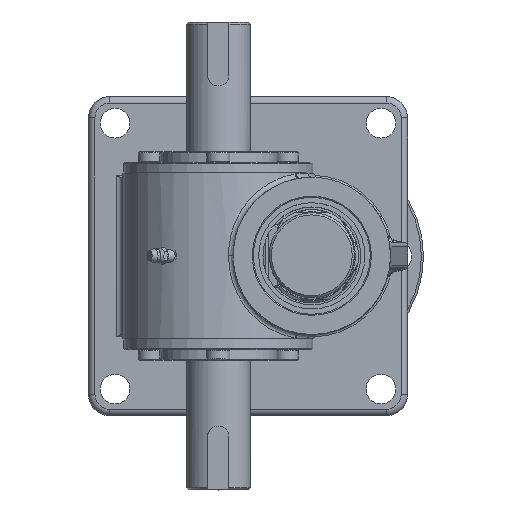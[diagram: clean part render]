
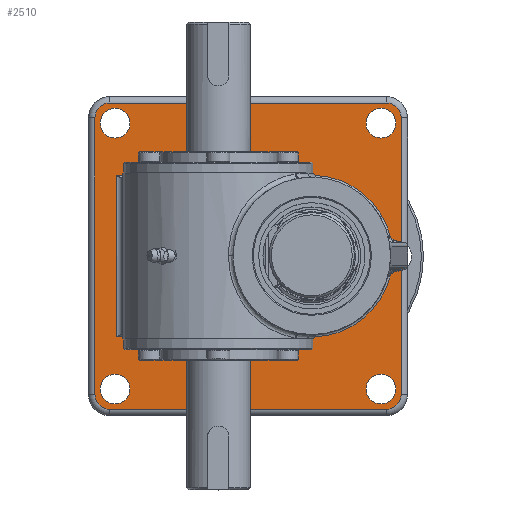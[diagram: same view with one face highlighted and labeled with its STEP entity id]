
A CAD part, top view. The second image highlights one B-rep face of the part: STEP entity #2510.
In plain terms, the highlighted planar face has unit normal (0, 0, 1).
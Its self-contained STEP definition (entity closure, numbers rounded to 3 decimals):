
#2510=ADVANCED_FACE('',(#5942,#5943,#5944,#5945,#5946),#5947,.T.);
#5942=FACE_OUTER_BOUND('',#13098,.T.);
#5943=FACE_BOUND('',#13099,.T.);
#5944=FACE_BOUND('',#13100,.T.);
#5945=FACE_BOUND('',#13101,.T.);
#5946=FACE_BOUND('',#13102,.T.);
#5947=PLANE('',#13103);
#13098=EDGE_LOOP('',(#23221,#23222,#23223,#23224,#23225,#23226,#23227,#23228,#23229,#23230,#23231,#23232,#23233,#23234,#23235,#23236,#23237,#23238,#23239,#23240,#23241,#23242,#23243,#23244));
#13099=EDGE_LOOP('',(#23245));
#13100=EDGE_LOOP('',(#23246));
#13101=EDGE_LOOP('',(#23247));
#13102=EDGE_LOOP('',(#23248));
#13103=AXIS2_PLACEMENT_3D('',#23249,#23250,#23251);
#23221=ORIENTED_EDGE('',*,*,#39569,.T.);
#23222=ORIENTED_EDGE('',*,*,#39277,.F.);
#23223=ORIENTED_EDGE('',*,*,#39338,.T.);
#23224=ORIENTED_EDGE('',*,*,#39333,.T.);
#23225=ORIENTED_EDGE('',*,*,#39607,.F.);
#23226=ORIENTED_EDGE('',*,*,#39136,.F.);
#23227=ORIENTED_EDGE('',*,*,#39271,.T.);
#23228=ORIENTED_EDGE('',*,*,#38793,.T.);
#23229=ORIENTED_EDGE('',*,*,#39521,.T.);
#23230=ORIENTED_EDGE('',*,*,#39517,.T.);
#23231=ORIENTED_EDGE('',*,*,#39519,.T.);
#23232=ORIENTED_EDGE('',*,*,#38767,.T.);
#23233=ORIENTED_EDGE('',*,*,#39274,.T.);
#23234=ORIENTED_EDGE('',*,*,#39565,.T.);
#23235=ORIENTED_EDGE('',*,*,#39267,.T.);
#23236=ORIENTED_EDGE('',*,*,#39491,.F.);
#23237=ORIENTED_EDGE('',*,*,#39564,.F.);
#23238=ORIENTED_EDGE('',*,*,#39100,.T.);
#23239=ORIENTED_EDGE('',*,*,#39099,.T.);
#23240=ORIENTED_EDGE('',*,*,#39613,.F.);
#23241=ORIENTED_EDGE('',*,*,#38785,.T.);
#23242=ORIENTED_EDGE('',*,*,#38783,.F.);
#23243=ORIENTED_EDGE('',*,*,#38779,.T.);
#23244=ORIENTED_EDGE('',*,*,#39614,.F.);
#23245=ORIENTED_EDGE('',*,*,#38814,.F.);
#23246=ORIENTED_EDGE('',*,*,#39492,.F.);
#23247=ORIENTED_EDGE('',*,*,#39615,.F.);
#23248=ORIENTED_EDGE('',*,*,#39173,.F.);
#23249=CARTESIAN_POINT('',(0.0,0.0,20.0));
#23250=DIRECTION('',(0.,0.,1.0));
#23251=DIRECTION('',(1.0,0.,0.));
#38767=EDGE_CURVE('',#45949,#45954,#45956,.T.);
#38779=EDGE_CURVE('',#45980,#45978,#45981,.T.);
#38783=EDGE_CURVE('',#45980,#45987,#45988,.T.);
#38785=EDGE_CURVE('',#45990,#45987,#45991,.T.);
#38793=EDGE_CURVE('',#45999,#46004,#46006,.T.);
#38814=EDGE_CURVE('',#46047,#46047,#46048,.T.);
#39099=EDGE_CURVE('',#46571,#46577,#46579,.T.);
#39100=EDGE_CURVE('',#46580,#46571,#46581,.T.);
#39136=EDGE_CURVE('',#46636,#46638,#46639,.T.);
#39173=EDGE_CURVE('',#46695,#46695,#46696,.T.);
#39267=EDGE_CURVE('',#46848,#46849,#46850,.T.);
#39271=EDGE_CURVE('',#46636,#45999,#46855,.T.);
#39274=EDGE_CURVE('',#45954,#46858,#46860,.T.);
#39277=EDGE_CURVE('',#46864,#46866,#46867,.T.);
#39333=EDGE_CURVE('',#46955,#46956,#46957,.T.);
#39338=EDGE_CURVE('',#46864,#46955,#46965,.T.);
#39491=EDGE_CURVE('',#47191,#46849,#47193,.T.);
#39492=EDGE_CURVE('',#47194,#47194,#47195,.T.);
#39517=EDGE_CURVE('',#47225,#47227,#47229,.T.);
#39519=EDGE_CURVE('',#47227,#45949,#47231,.T.);
#39521=EDGE_CURVE('',#46004,#47225,#47233,.T.);
#39564=EDGE_CURVE('',#46580,#47191,#47288,.T.);
#39565=EDGE_CURVE('',#46858,#46848,#47289,.T.);
#39569=EDGE_CURVE('',#47291,#46866,#47295,.T.);
#39607=EDGE_CURVE('',#46638,#46956,#47346,.T.);
#39613=EDGE_CURVE('',#45990,#46577,#47352,.T.);
#39614=EDGE_CURVE('',#47291,#45978,#47353,.T.);
#39615=EDGE_CURVE('',#47354,#47354,#47355,.T.);
#45949=VERTEX_POINT('',#58855);
#45954=VERTEX_POINT('',#58860);
#45956=CIRCLE('',#58862,7.0);
#45978=VERTEX_POINT('',#58887);
#45980=VERTEX_POINT('',#58898);
#45981=LINE('',#58899,#58900);
#45987=VERTEX_POINT('',#58918);
#45988=LINE('',#58919,#58920);
#45990=VERTEX_POINT('',#58931);
#45991=LINE('',#58932,#58933);
#45999=VERTEX_POINT('',#58955);
#46004=VERTEX_POINT('',#58960);
#46006=CIRCLE('',#58962,7.0);
#46047=VERTEX_POINT('',#59011);
#46048=CIRCLE('',#59012,7.0);
#46571=VERTEX_POINT('',#59960);
#46577=VERTEX_POINT('',#59989);
#46579=LINE('',#60000,#60001);
#46580=VERTEX_POINT('',#60002);
#46581=CIRCLE('',#60003,38.0);
#46636=VERTEX_POINT('',#60106);
#46638=VERTEX_POINT('',#60108);
#46639=LINE('',#60109,#60110);
#46695=VERTEX_POINT('',#60185);
#46696=CIRCLE('',#60186,7.0);
#46848=VERTEX_POINT('',#60715);
#46849=VERTEX_POINT('',#60716);
#46850=LINE('',#60717,#60718);
#46855=LINE('',#60746,#60747);
#46858=VERTEX_POINT('',#60751);
#46860=LINE('',#60753,#60754);
#46864=VERTEX_POINT('',#60759);
#46866=VERTEX_POINT('',#60774);
#46867=LINE('',#60775,#60776);
#46955=VERTEX_POINT('',#61064);
#46956=VERTEX_POINT('',#61065);
#46957=CIRCLE('',#61066,38.0);
#46965=LINE('',#61102,#61103);
#47191=VERTEX_POINT('',#61566);
#47193=LINE('',#61569,#61570);
#47194=VERTEX_POINT('',#61571);
#47195=CIRCLE('',#61572,7.0);
#47225=VERTEX_POINT('',#61696);
#47227=VERTEX_POINT('',#61698);
#47229=CIRCLE('',#61700,7.0);
#47231=LINE('',#61703,#61704);
#47233=LINE('',#61707,#61708);
#47288=CIRCLE('',#61919,5.0);
#47289=CIRCLE('',#61920,7.0);
#47291=VERTEX_POINT('',#61930);
#47295=LINE('',#61943,#61944);
#47346=CIRCLE('',#62122,5.0);
#47352=LINE('',#62133,#62134);
#47353=LINE('',#62135,#62136);
#47354=VERTEX_POINT('',#62137);
#47355=CIRCLE('',#62138,7.0);
#58855=CARTESIAN_POINT('',(-72.0,-65.0,20.0));
#58860=CARTESIAN_POINT('',(-65.,-72.0,20.0));
#58862=AXIS2_PLACEMENT_3D('',#75846,#75847,#75848);
#58887=CARTESIAN_POINT('',(-62.0,38.0,20.0));
#58898=CARTESIAN_POINT('',(-62.0,-38.0,20.0));
#58899=CARTESIAN_POINT('',(-62.0,0.0,20.0));
#58900=VECTOR('',#75873,1.0);
#58918=CARTESIAN_POINT('',(-47.466,-38.0,20.0));
#58919=CARTESIAN_POINT('',(-54.733,-38.0,20.0));
#58920=VECTOR('',#75878,1.0);
#58931=CARTESIAN_POINT('',(-47.466,-40.0,20.0));
#58932=CARTESIAN_POINT('',(-47.466,38.0,20.0));
#58933=VECTOR('',#75879,1.0);
#58955=CARTESIAN_POINT('',(72.0,65.0,20.0));
#58960=CARTESIAN_POINT('',(65.,72.0,20.0));
#58962=AXIS2_PLACEMENT_3D('',#75896,#75897,#75898);
#59011=CARTESIAN_POINT('',(69.5,-62.5,20.0));
#59012=AXIS2_PLACEMENT_3D('',#75943,#75944,#75945);
#59960=CARTESIAN_POINT('',(19.466,-36.511,20.0));
#59989=CARTESIAN_POINT('',(19.466,-40.0,20.0));
#60000=CARTESIAN_POINT('',(19.466,0.,20.0));
#60001=VECTOR('',#76543,1.0);
#60002=CARTESIAN_POINT('',(67.08,-8.311,20.0));
#60003=AXIS2_PLACEMENT_3D('',#76544,#76545,#76546);
#60106=CARTESIAN_POINT('',(72.0,6.683,20.0));
#60108=CARTESIAN_POINT('',(69.053,7.364,20.0));
#60109=CARTESIAN_POINT('',(70.527,7.024,20.0));
#60110=VECTOR('',#76618,1.0);
#60185=CARTESIAN_POINT('',(-55.5,62.5,20.0));
#60186=AXIS2_PLACEMENT_3D('',#76689,#76690,#76691);
#60715=CARTESIAN_POINT('',(72.0,-65.,20.0));
#60716=CARTESIAN_POINT('',(72.0,-6.683,20.0));
#60717=CARTESIAN_POINT('',(72.0,0.,20.0));
#60718=VECTOR('',#76844,1.0);
#60746=CARTESIAN_POINT('',(72.0,0.,20.0));
#60747=VECTOR('',#76848,1.0);
#60751=CARTESIAN_POINT('',(65.0,-72.0,20.0));
#60753=CARTESIAN_POINT('',(0.0,-72.0,20.0));
#60754=VECTOR('',#76853,1.0);
#60759=CARTESIAN_POINT('',(19.466,40.0,20.0));
#60774=CARTESIAN_POINT('',(-47.466,40.0,20.0));
#60775=CARTESIAN_POINT('',(0.0,40.0,20.0));
#60776=VECTOR('',#76855,1.0);
#61064=CARTESIAN_POINT('',(19.466,36.511,20.0));
#61065=CARTESIAN_POINT('',(67.08,8.311,20.0));
#61066=AXIS2_PLACEMENT_3D('',#76935,#76936,#76937);
#61102=CARTESIAN_POINT('',(19.466,0.,20.0));
#61103=VECTOR('',#76941,1.0);
#61566=CARTESIAN_POINT('',(69.053,-7.364,20.0));
#61569=CARTESIAN_POINT('',(70.527,-7.024,20.0));
#61570=VECTOR('',#77260,1.0);
#61571=CARTESIAN_POINT('',(-55.5,-62.5,20.0));
#61572=AXIS2_PLACEMENT_3D('',#77261,#77262,#77263);
#61696=CARTESIAN_POINT('',(-65.0,72.0,20.0));
#61698=CARTESIAN_POINT('',(-72.0,65.,20.0));
#61700=AXIS2_PLACEMENT_3D('',#77294,#77295,#77296);
#61703=CARTESIAN_POINT('',(-72.0,0.0,20.0));
#61704=VECTOR('',#77298,1.0);
#61707=CARTESIAN_POINT('',(0.0,72.0,20.0));
#61708=VECTOR('',#77300,1.0);
#61919=AXIS2_PLACEMENT_3D('',#77363,#77364,#77365);
#61920=AXIS2_PLACEMENT_3D('',#77366,#77367,#77368);
#61930=CARTESIAN_POINT('',(-47.466,38.0,20.0));
#61943=CARTESIAN_POINT('',(-47.466,38.0,20.0));
#61944=VECTOR('',#77372,1.0);
#62122=AXIS2_PLACEMENT_3D('',#77430,#77431,#77432);
#62133=CARTESIAN_POINT('',(0.0,-40.0,20.0));
#62134=VECTOR('',#77441,1.0);
#62135=CARTESIAN_POINT('',(-54.733,38.0,20.0));
#62136=VECTOR('',#77442,1.0);
#62137=CARTESIAN_POINT('',(69.5,62.5,20.0));
#62138=AXIS2_PLACEMENT_3D('',#77443,#77444,#77445);
#75846=CARTESIAN_POINT('',(-65.0,-65.0,20.0));
#75847=DIRECTION('',(0.,0.,1.0));
#75848=DIRECTION('',(1.0,0.,0.));
#75873=DIRECTION('',(0.0,1.0,0.));
#75878=DIRECTION('',(1.0,0.0,0.0));
#75879=DIRECTION('',(0.0,1.0,0.0));
#75896=CARTESIAN_POINT('',(65.0,65.0,20.0));
#75897=DIRECTION('',(0.,0.,1.0));
#75898=DIRECTION('',(1.0,0.,0.));
#75943=CARTESIAN_POINT('',(62.5,-62.5,20.0));
#75944=DIRECTION('',(0.,0.,1.0));
#75945=DIRECTION('',(1.0,0.,0.));
#76543=DIRECTION('',(0.0,-1.0,0.0));
#76544=CARTESIAN_POINT('',(30.0,0.0,20.0));
#76545=DIRECTION('',(0.,0.,-1.0));
#76546=DIRECTION('',(1.0,0.,0.));
#76618=DIRECTION('',(-0.974,0.225,0.0));
#76689=CARTESIAN_POINT('',(-62.5,62.5,20.0));
#76690=DIRECTION('',(0.,0.,1.0));
#76691=DIRECTION('',(1.0,0.,0.));
#76844=DIRECTION('',(0.0,1.0,0.));
#76848=DIRECTION('',(0.0,1.0,0.));
#76853=DIRECTION('',(1.0,0.0,0.));
#76855=DIRECTION('',(-1.0,0.0,0.0));
#76935=CARTESIAN_POINT('',(30.0,0.0,20.0));
#76936=DIRECTION('',(0.,0.,-1.0));
#76937=DIRECTION('',(1.0,0.,0.));
#76941=DIRECTION('',(0.0,-1.0,0.0));
#77260=DIRECTION('',(0.974,0.225,0.0));
#77261=CARTESIAN_POINT('',(-62.5,-62.5,20.0));
#77262=DIRECTION('',(0.,0.,1.0));
#77263=DIRECTION('',(1.0,0.,0.));
#77294=CARTESIAN_POINT('',(-65.0,65.0,20.0));
#77295=DIRECTION('',(0.,0.,1.0));
#77296=DIRECTION('',(1.0,0.,0.));
#77298=DIRECTION('',(0.0,-1.0,0.));
#77300=DIRECTION('',(-1.0,0.0,0.));
#77363=CARTESIAN_POINT('',(70.178,-12.236,20.0));
#77364=DIRECTION('',(0.,0.,-1.0));
#77365=DIRECTION('',(1.0,0.,0.));
#77366=CARTESIAN_POINT('',(65.0,-65.0,20.0));
#77367=DIRECTION('',(0.,0.,1.0));
#77368=DIRECTION('',(1.0,0.,0.));
#77372=DIRECTION('',(0.0,1.0,0.0));
#77430=CARTESIAN_POINT('',(70.178,12.236,20.0));
#77431=DIRECTION('',(0.,0.,-1.0));
#77432=DIRECTION('',(1.0,0.,0.));
#77441=DIRECTION('',(1.0,0.0,0.0));
#77442=DIRECTION('',(-1.0,0.0,0.0));
#77443=CARTESIAN_POINT('',(62.5,62.5,20.0));
#77444=DIRECTION('',(0.,0.,1.0));
#77445=DIRECTION('',(1.0,0.,0.));
